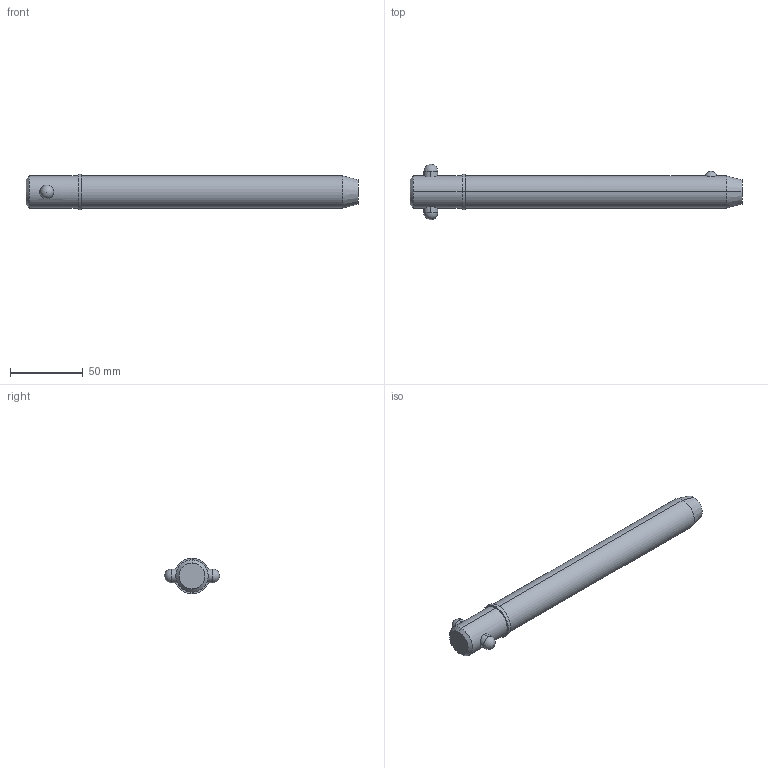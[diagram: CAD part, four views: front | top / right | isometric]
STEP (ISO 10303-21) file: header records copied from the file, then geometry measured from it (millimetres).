
FILE_DESCRIPTION (( 'STEP AP203' ), '1' );
FILE_NAME ('33018.W8865.step', '2024-11-19T17:23:18', ( '' ), ( '' ), 'SwSTEP 2.0', 'SolidWorks 2019', '' );
FILE_SCHEMA (( 'CONFIG_CONTROL_DESIGN' ));
Length unit declared in the file: millimetre
Products named in the file (3): Part2_33018.W8865; 33018.W8865; Part1_33018.W8865
Assembly tree (2 placements, depth 2):
  33018.W8865
    Part1_33018.W8865
    Part2_33018.W8865
Bounding box: 228.6 x 38.1 x 24.45 mm (x, y, z)
Volume: 88867.2 mm3; surface area: 18248.2 mm2
Topology: 2 solids, 2 shells, 22 faces, 47 edges, 30 vertices
Faces by surface type: cylinder 10, sphere 4, cone 4, plane 4
Entity records: 1057 total; most frequent: CARTESIAN_POINT 300, DIRECTION 110, ORIENTED_EDGE 82, AXIS2_PLACEMENT_3D 48, EDGE_CURVE 41, EDGE_LOOP 27, PERSON_AND_ORGANIZATION 26, VERTEX_POINT 26
